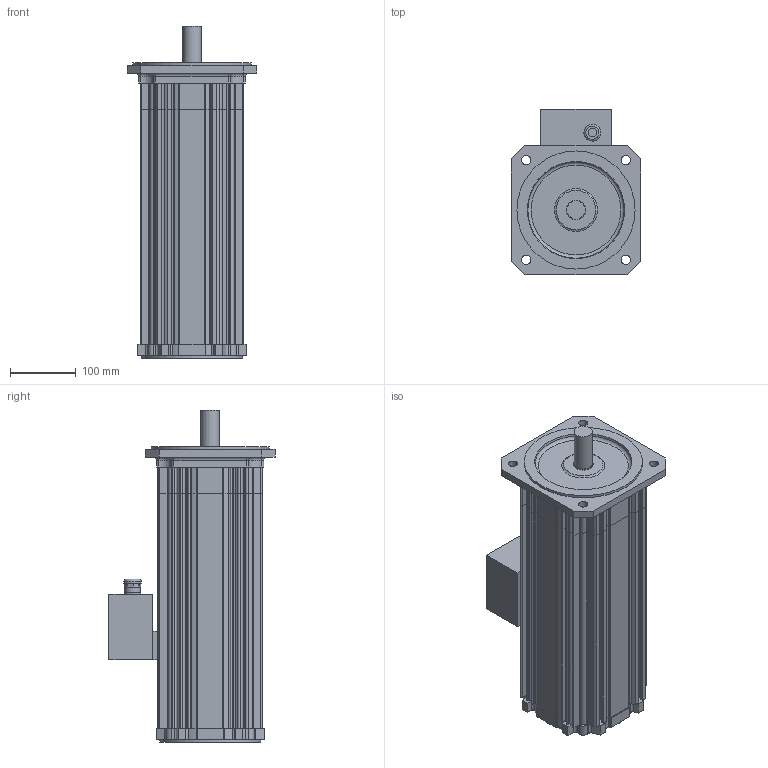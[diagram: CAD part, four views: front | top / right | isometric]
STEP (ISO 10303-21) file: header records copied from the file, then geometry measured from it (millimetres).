
FILE_DESCRIPTION(/* description */ (''),/* implementation_level */ '2;1');
FILE_NAME(/* name */ 'KSA8416_MC',/* time_stamp */ '2009-02-26T16:15:12+01:00',/* author */ (''),/* organization */ (''),/* preprocessor_version */ 'ST-DEVELOPER v8',/* originating_system */ 'UNIGRAPHICS SOLUTIONS - UNIGRAPHICS 18.0',/* authorisation */ '');
FILE_SCHEMA (('AUTOMOTIVE_DESIGN { 1 2 10303 214 0 1 1 1 }'));
Length unit declared in the file: millimetre
Products named in the file (6): 0280391600_0; Lagersch_8BS_0; Lagersch_8AS_0; 089107X_0; SK3958_0; KSA8412_MC_0
Assembly tree (5 placements, depth 3):
  KSA8412_MC_0
    089107X_0
    Lagersch_8AS_0
    Lagersch_8BS_0
    SK3958_0
      0280391600_0
Bounding box: 198 x 253.35 x 506 mm (x, y, z)
Volume: 3774513.2 mm3; surface area: 890050.9 mm2
Topology: 6 solids, 6 shells, 666 faces, 1889 edges, 1249 vertices
Faces by surface type: cylinder 339, plane 302, torus 23, cone 2
Full cylindrical faces by diameter (mm): 13 x1, 14 x4, 20 x2, 24 x1, 26 x1, 28 x1, 30 x1, 35 x1, 143 x1, 149.6 x2, 151 x2, 154 x1, 180 x1
Entity records: 21937 total; most frequent: DIRECTION 3904, CARTESIAN_POINT 3892, ORIENTED_EDGE 3716, EDGE_CURVE 1858, AXIS2_PLACEMENT_3D 1398, VERTEX_POINT 1242, LINE 1108, VECTOR 1108
